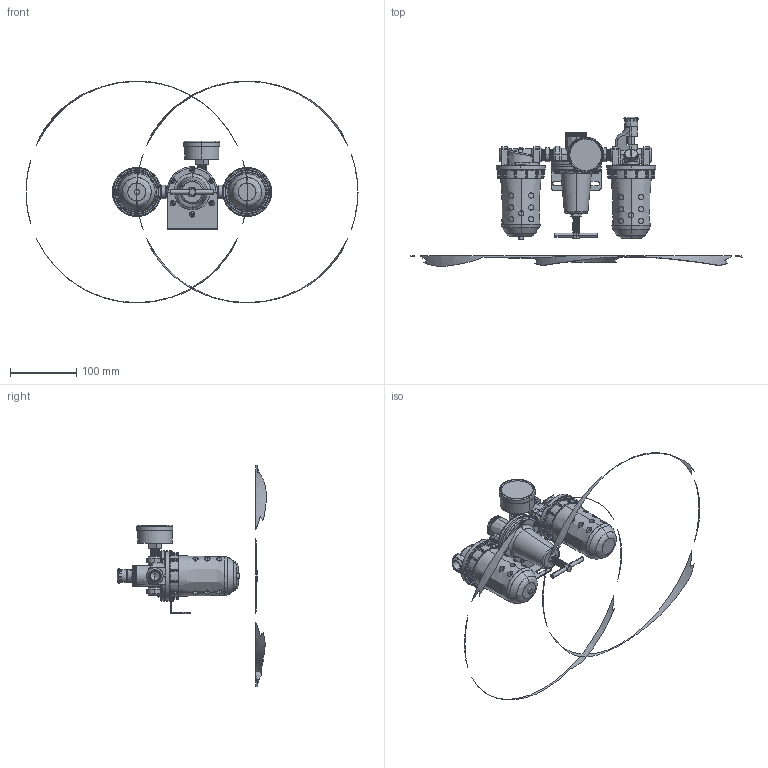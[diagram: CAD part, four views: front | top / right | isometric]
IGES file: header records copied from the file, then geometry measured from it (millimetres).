
Start section: SolidWorks IGES file using analytic representation for surfaces
Global section: file name: C:\Users\Toshiba\Desktop\C628-03#YB#.IGS; native system: SolidWorks 2014; preprocessor: SolidWorks 2014; author: Toshiba; date: 160216.115348; units: millimetre
Bounding box: 502.19 x 226.4 x 335.68 mm (x, y, z)
Surface area: 178053 mm2 (no closed solid volume)
Topology: 0 solids, 0 shells, 1698 faces, 24197 edges, 24168 vertices
Faces by surface type: bspline 857, revolution 841
